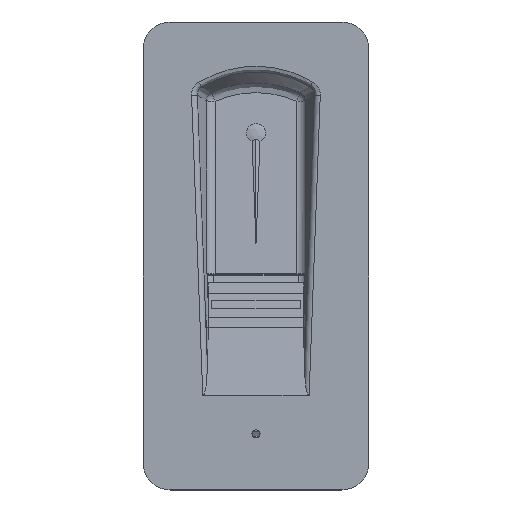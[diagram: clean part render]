
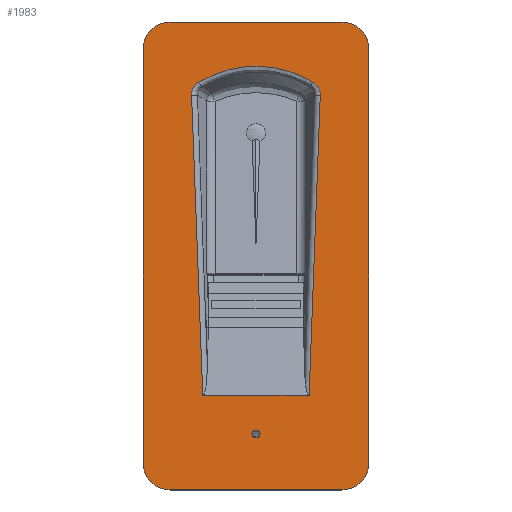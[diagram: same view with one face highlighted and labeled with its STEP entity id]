
A CAD part, top view. The second image highlights one B-rep face of the part: STEP entity #1983.
In plain terms, the highlighted planar face has unit normal (0, 0, 1).
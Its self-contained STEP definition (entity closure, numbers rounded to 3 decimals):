
#1983 = ADVANCED_FACE( '', ( #5569, #5570, #5571 ), #5572, .T. );
#5569 = FACE_BOUND( '', #11043, .T. );
#5570 = FACE_OUTER_BOUND( '', #11044, .T. );
#5571 = FACE_BOUND( '', #11045, .T. );
#5572 = PLANE( '', #11046 );
#11043 = EDGE_LOOP( '', ( #17383, #17384, #17385, #17386, #17387, #17388 ) );
#11044 = EDGE_LOOP( '', ( #17389, #17390, #17391, #17392, #17393, #17394, #17395, #17396 ) );
#11045 = EDGE_LOOP( '', ( #17397 ) );
#11046 = AXIS2_PLACEMENT_3D( '', #17398, #17399, #17400 );
#17383 = ORIENTED_EDGE( '', *, *, #33526, .T. );
#17384 = ORIENTED_EDGE( '', *, *, #33527, .T. );
#17385 = ORIENTED_EDGE( '', *, *, #33528, .T. );
#17386 = ORIENTED_EDGE( '', *, *, #33529, .T. );
#17387 = ORIENTED_EDGE( '', *, *, #33530, .T. );
#17388 = ORIENTED_EDGE( '', *, *, #33531, .T. );
#17389 = ORIENTED_EDGE( '', *, *, #33532, .T. );
#17390 = ORIENTED_EDGE( '', *, *, #33533, .T. );
#17391 = ORIENTED_EDGE( '', *, *, #33534, .T. );
#17392 = ORIENTED_EDGE( '', *, *, #33535, .T. );
#17393 = ORIENTED_EDGE( '', *, *, #33536, .T. );
#17394 = ORIENTED_EDGE( '', *, *, #33537, .T. );
#17395 = ORIENTED_EDGE( '', *, *, #33538, .T. );
#17396 = ORIENTED_EDGE( '', *, *, #33539, .T. );
#17397 = ORIENTED_EDGE( '', *, *, #33540, .F. );
#17398 = CARTESIAN_POINT( '', ( -11.15, -34.869, 1.755 ) );
#17399 = DIRECTION( '', ( 0., 0., 1. ) );
#17400 = DIRECTION( '', ( -1., 0., 0. ) );
#33526 = EDGE_CURVE( '', #40214, #40215, #40216, .T. );
#33527 = EDGE_CURVE( '', #40215, #40217, #40218, .T. );
#33528 = EDGE_CURVE( '', #40217, #40219, #40220, .T. );
#33529 = EDGE_CURVE( '', #40219, #40221, #40222, .T. );
#33530 = EDGE_CURVE( '', #40221, #40223, #40224, .T. );
#33531 = EDGE_CURVE( '', #40223, #40214, #40225, .T. );
#33532 = EDGE_CURVE( '', #40226, #40227, #40228, .T. );
#33533 = EDGE_CURVE( '', #40227, #40229, #40230, .T. );
#33534 = EDGE_CURVE( '', #40229, #40231, #40232, .T. );
#33535 = EDGE_CURVE( '', #40231, #40233, #40234, .T. );
#33536 = EDGE_CURVE( '', #40233, #40235, #40236, .T. );
#33537 = EDGE_CURVE( '', #40235, #40237, #40238, .T. );
#33538 = EDGE_CURVE( '', #40237, #40239, #40240, .T. );
#33539 = EDGE_CURVE( '', #40239, #40226, #40241, .T. );
#33540 = EDGE_CURVE( '', #40242, #40242, #40243, .T. );
#40214 = VERTEX_POINT( '', #50602 );
#40215 = VERTEX_POINT( '', #50603 );
#40216 = LINE( '', #50604, #50605 );
#40217 = VERTEX_POINT( '', #50606 );
#40218 = LINE( '', #50607, #50608 );
#40219 = VERTEX_POINT( '', #50609 );
#40220 = B_SPLINE_CURVE_WITH_KNOTS( '', 3, ( #50610, #50611, #50612, #50613, #50614, #50615, #50616, #50617, #50618, #50619 ), .UNSPECIFIED., .F., .F., ( 4, 2, 2, 2, 4 ), ( 0., 0.065, 0.371, 0.686, 1. ), .UNSPECIFIED. );
#40221 = VERTEX_POINT( '', #50620 );
#40222 = ELLIPSE( '', #50621, 15.472, 13.7 );
#40223 = VERTEX_POINT( '', #50622 );
#40224 = B_SPLINE_CURVE_WITH_KNOTS( '', 3, ( #50623, #50624, #50625, #50626, #50627, #50628, #50629, #50630, #50631, #50632 ), .UNSPECIFIED., .F., .F., ( 4, 2, 2, 2, 4 ), ( 0., 0.064, 0.37, 0.685, 1. ), .UNSPECIFIED. );
#40225 = LINE( '', #50633, #50634 );
#40226 = VERTEX_POINT( '', #50635 );
#40227 = VERTEX_POINT( '', #50636 );
#40228 = LINE( '', #50637, #50638 );
#40229 = VERTEX_POINT( '', #50639 );
#40230 = CIRCLE( '', #50640, 3. );
#40231 = VERTEX_POINT( '', #50641 );
#40232 = LINE( '', #50642, #50643 );
#40233 = VERTEX_POINT( '', #50644 );
#40234 = CIRCLE( '', #50645, 3. );
#40235 = VERTEX_POINT( '', #50646 );
#40236 = LINE( '', #50647, #50648 );
#40237 = VERTEX_POINT( '', #50649 );
#40238 = CIRCLE( '', #50650, 3. );
#40239 = VERTEX_POINT( '', #50651 );
#40240 = LINE( '', #50652, #50653 );
#40241 = CIRCLE( '', #50654, 3. );
#40242 = VERTEX_POINT( '', #50655 );
#40243 = CIRCLE( '', #50656, 0.45 );
#50602 = CARTESIAN_POINT( '', ( 5.76, -19.896, 1.755 ) );
#50603 = CARTESIAN_POINT( '', ( -6.079, -19.896, 1.755 ) );
#50604 = CARTESIAN_POINT( '', ( 5.1, -19.896, 1.755 ) );
#50605 = VECTOR( '', #70376, 1000. );
#50606 = CARTESIAN_POINT( '', ( -7.32, 13.503, 1.755 ) );
#50607 = CARTESIAN_POINT( '', ( -5.53, -34.66, 1.755 ) );
#50608 = VECTOR( '', #70377, 1000. );
#50609 = CARTESIAN_POINT( '', ( -6.518, 14.978, 1.755 ) );
#50610 = CARTESIAN_POINT( '', ( -7.32, 13.503, 1.755 ) );
#50611 = CARTESIAN_POINT( '', ( -7.322, 13.542, 1.755 ) );
#50612 = CARTESIAN_POINT( '', ( -7.322, 13.58, 1.755 ) );
#50613 = CARTESIAN_POINT( '', ( -7.316, 13.798, 1.755 ) );
#50614 = CARTESIAN_POINT( '', ( -7.281, 13.978, 1.755 ) );
#50615 = CARTESIAN_POINT( '', ( -7.154, 14.319, 1.755 ) );
#50616 = CARTESIAN_POINT( '', ( -7.059, 14.482, 1.755 ) );
#50617 = CARTESIAN_POINT( '', ( -6.821, 14.763, 1.755 ) );
#50618 = CARTESIAN_POINT( '', ( -6.676, 14.884, 1.755 ) );
#50619 = CARTESIAN_POINT( '', ( -6.518, 14.978, 1.755 ) );
#50620 = CARTESIAN_POINT( '', ( 6.197, 14.99, 1.755 ) );
#50621 = AXIS2_PLACEMENT_3D( '', #70378, #70379, #70380 );
#50622 = CARTESIAN_POINT( '', ( 7.002, 13.514, 1.755 ) );
#50623 = CARTESIAN_POINT( '', ( 6.197, 14.99, 1.755 ) );
#50624 = CARTESIAN_POINT( '', ( 6.229, 14.971, 1.755 ) );
#50625 = CARTESIAN_POINT( '', ( 6.261, 14.95, 1.755 ) );
#50626 = CARTESIAN_POINT( '', ( 6.441, 14.828, 1.755 ) );
#50627 = CARTESIAN_POINT( '', ( 6.574, 14.701, 1.755 ) );
#50628 = CARTESIAN_POINT( '', ( 6.792, 14.41, 1.755 ) );
#50629 = CARTESIAN_POINT( '', ( 6.878, 14.24, 1.755 ) );
#50630 = CARTESIAN_POINT( '', ( 6.985, 13.887, 1.755 ) );
#50631 = CARTESIAN_POINT( '', ( 7.009, 13.698, 1.755 ) );
#50632 = CARTESIAN_POINT( '', ( 7.002, 13.514, 1.755 ) );
#50633 = CARTESIAN_POINT( '', ( 5.759, -19.913, 1.755 ) );
#50634 = VECTOR( '', #70381, 1000. );
#50635 = CARTESIAN_POINT( '', ( -12.7, 18.681, 1.755 ) );
#50636 = CARTESIAN_POINT( '', ( -12.7, -27.419, 1.755 ) );
#50637 = CARTESIAN_POINT( '', ( -12.7, 20.131, 1.755 ) );
#50638 = VECTOR( '', #70382, 1000. );
#50639 = CARTESIAN_POINT( '', ( -9.7, -30.419, 1.755 ) );
#50640 = AXIS2_PLACEMENT_3D( '', #70383, #70384, #70385 );
#50641 = CARTESIAN_POINT( '', ( 9.4, -30.419, 1.755 ) );
#50642 = CARTESIAN_POINT( '', ( -11.15, -30.419, 1.755 ) );
#50643 = VECTOR( '', #70386, 1000. );
#50644 = CARTESIAN_POINT( '', ( 12.4, -27.419, 1.755 ) );
#50645 = AXIS2_PLACEMENT_3D( '', #70387, #70388, #70389 );
#50646 = CARTESIAN_POINT( '', ( 12.4, 18.681, 1.755 ) );
#50647 = CARTESIAN_POINT( '', ( 12.4, -34.869, 1.755 ) );
#50648 = VECTOR( '', #70390, 1000. );
#50649 = CARTESIAN_POINT( '', ( 9.4, 21.681, 1.755 ) );
#50650 = AXIS2_PLACEMENT_3D( '', #70391, #70392, #70393 );
#50651 = CARTESIAN_POINT( '', ( -9.7, 21.681, 1.755 ) );
#50652 = CARTESIAN_POINT( '', ( 10.85, 21.681, 1.755 ) );
#50653 = VECTOR( '', #70394, 1000. );
#50654 = AXIS2_PLACEMENT_3D( '', #70395, #70396, #70397 );
#50655 = CARTESIAN_POINT( '', ( 0.3, -24.169, 1.755 ) );
#50656 = AXIS2_PLACEMENT_3D( '', #70398, #70399, #70400 );
#70376 = DIRECTION( '', ( -1., 0., 0. ) );
#70377 = DIRECTION( '', ( -0.037, 0.999, 0. ) );
#70378 = CARTESIAN_POINT( '', ( -0.15, 1.278, 1.755 ) );
#70379 = DIRECTION( '', ( 0., 0., -1. ) );
#70380 = DIRECTION( '', ( 0., 1., 0. ) );
#70381 = DIRECTION( '', ( -0.037, -0.999, 0. ) );
#70382 = DIRECTION( '', ( 0., -1., 0. ) );
#70383 = CARTESIAN_POINT( '', ( -9.7, -27.419, 1.755 ) );
#70384 = DIRECTION( '', ( 0., 0., 1. ) );
#70385 = DIRECTION( '', ( 1., 0., 0. ) );
#70386 = DIRECTION( '', ( 1., 0., 0. ) );
#70387 = CARTESIAN_POINT( '', ( 9.4, -27.419, 1.755 ) );
#70388 = DIRECTION( '', ( 0., 0., 1. ) );
#70389 = DIRECTION( '', ( 1., 0., 0. ) );
#70390 = DIRECTION( '', ( 0., 1., 0. ) );
#70391 = CARTESIAN_POINT( '', ( 9.4, 18.681, 1.755 ) );
#70392 = DIRECTION( '', ( 0., 0., 1. ) );
#70393 = DIRECTION( '', ( 1., 0., 0. ) );
#70394 = DIRECTION( '', ( -1., 0., 0. ) );
#70395 = CARTESIAN_POINT( '', ( -9.7, 18.681, 1.755 ) );
#70396 = DIRECTION( '', ( 0., 0., 1. ) );
#70397 = DIRECTION( '', ( 1., 0., 0. ) );
#70398 = CARTESIAN_POINT( '', ( -0.15, -24.169, 1.755 ) );
#70399 = DIRECTION( '', ( 0., 0., 1. ) );
#70400 = DIRECTION( '', ( 1., 0., 0. ) );
